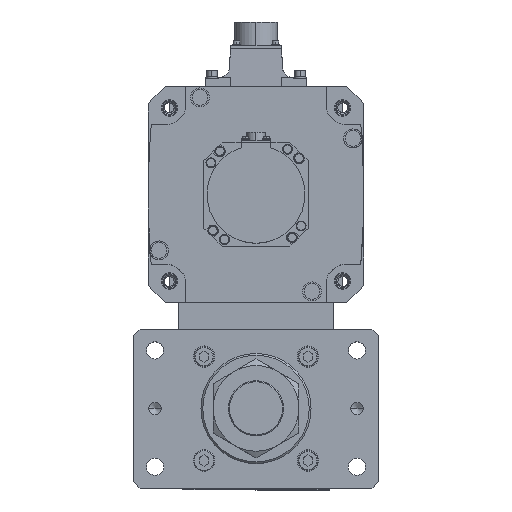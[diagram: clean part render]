
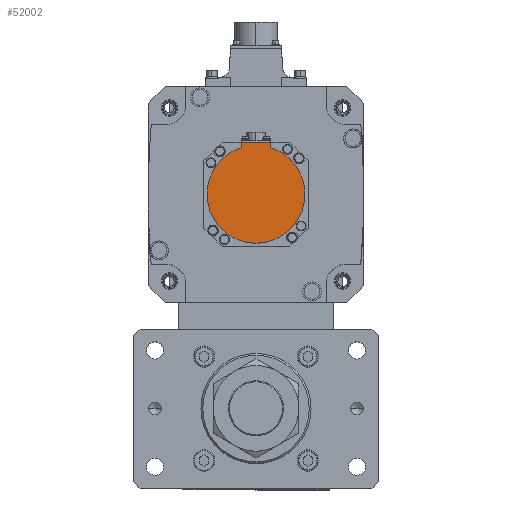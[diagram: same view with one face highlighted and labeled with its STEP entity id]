
A CAD part, top view. The second image highlights one B-rep face of the part: STEP entity #52002.
In plain terms, the highlighted planar face has unit normal (0, 0, 1) as drawn and (0, 0, -1) by its records, which use the part's own axes.
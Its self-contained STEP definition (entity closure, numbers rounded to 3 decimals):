
#112 = PLANE ( 'NONE',  #39956 ) ;
#235 = ORIENTED_EDGE ( 'NONE', *, *, #29840, .F. ) ;
#741 = VERTEX_POINT ( 'NONE', #10797 ) ;
#1277 = AXIS2_PLACEMENT_3D ( 'NONE', #44938, #29674, #21399 ) ;
#1887 = VECTOR ( 'NONE', #18092, 1000. ) ;
#3756 = EDGE_LOOP ( 'NONE', ( #36970, #32651, #235, #41094, #12124, #16810 ) ) ;
#6141 = CARTESIAN_POINT ( 'NONE',  ( -12., -38.158, -138.5 ) ) ;
#6347 = DIRECTION ( 'NONE',  ( 1., 0., 0. ) ) ;
#6721 = CARTESIAN_POINT ( 'NONE',  ( 12., -38.158, -138.5 ) ) ;
#8198 = CARTESIAN_POINT ( 'NONE',  ( 0., -1.249, -138.5 ) ) ;
#9946 = EDGE_CURVE ( 'NONE', #49425, #741, #13888, .T. ) ;
#10797 = CARTESIAN_POINT ( 'NONE',  ( -12., -42.5, -138.5 ) ) ;
#12124 = ORIENTED_EDGE ( 'NONE', *, *, #17958, .F. ) ;
#12603 = DIRECTION ( 'NONE',  ( 0., 0., 1. ) ) ;
#13124 = DIRECTION ( 'NONE',  ( 0., 0., 1. ) ) ;
#13888 = LINE ( 'NONE', #38005, #1887 ) ;
#14594 = VERTEX_POINT ( 'NONE', #6721 ) ;
#14755 = VERTEX_POINT ( 'NONE', #43808 ) ;
#16810 = ORIENTED_EDGE ( 'NONE', *, *, #9946, .T. ) ;
#17958 = EDGE_CURVE ( 'NONE', #49425, #14594, #37338, .T. ) ;
#18092 = DIRECTION ( 'NONE',  ( -1., 0., 0. ) ) ;
#19154 = VECTOR ( 'NONE', #20034, 1000. ) ;
#19268 = EDGE_CURVE ( 'NONE', #14594, #14755, #28472, .T. ) ;
#20034 = DIRECTION ( 'NONE',  ( 0., 1., 0. ) ) ;
#20744 = FACE_OUTER_BOUND ( 'NONE', #3756, .T. ) ;
#21399 = DIRECTION ( 'NONE',  ( 1., 0., 0. ) ) ;
#21607 = CARTESIAN_POINT ( 'NONE',  ( 12., -1.249, -138.5 ) ) ;
#22288 = VERTEX_POINT ( 'NONE', #6141 ) ;
#22399 = DIRECTION ( 'NONE',  ( 0., 0., 1. ) ) ;
#24146 = EDGE_CURVE ( 'NONE', #741, #22288, #25479, .T. ) ;
#25479 = LINE ( 'NONE', #51454, #19154 ) ;
#26640 = VECTOR ( 'NONE', #29704, 1000. ) ;
#28472 = CIRCLE ( 'NONE', #1277, 40. ) ;
#28995 = CARTESIAN_POINT ( 'NONE',  ( 0., 0., -138.5 ) ) ;
#29674 = DIRECTION ( 'NONE',  ( 0., 0., 1. ) ) ;
#29704 = DIRECTION ( 'NONE',  ( 0., 1., 0. ) ) ;
#29840 = EDGE_CURVE ( 'NONE', #14755, #37046, #50028, .T. ) ;
#32651 = ORIENTED_EDGE ( 'NONE', *, *, #45297, .F. ) ;
#32677 = DIRECTION ( 'NONE',  ( 1., 0., 0. ) ) ;
#34101 = AXIS2_PLACEMENT_3D ( 'NONE', #28995, #13124, #41271 ) ;
#36970 = ORIENTED_EDGE ( 'NONE', *, *, #24146, .T. ) ;
#37046 = VERTEX_POINT ( 'NONE', #42329 ) ;
#37338 = LINE ( 'NONE', #21607, #26640 ) ;
#37475 = CARTESIAN_POINT ( 'NONE',  ( 12., -42.5, -138.5 ) ) ;
#38005 = CARTESIAN_POINT ( 'NONE',  ( 0., -42.5, -138.5 ) ) ;
#38753 = CARTESIAN_POINT ( 'NONE',  ( 0., 0., -138.5 ) ) ;
#39956 = AXIS2_PLACEMENT_3D ( 'NONE', #8198, #12603, #32677 ) ;
#41094 = ORIENTED_EDGE ( 'NONE', *, *, #19268, .F. ) ;
#41271 = DIRECTION ( 'NONE',  ( 1., 0., 0. ) ) ;
#41429 = AXIS2_PLACEMENT_3D ( 'NONE', #38753, #22399, #6347 ) ;
#42329 = CARTESIAN_POINT ( 'NONE',  ( -40., 0., -138.5 ) ) ;
#43808 = CARTESIAN_POINT ( 'NONE',  ( 40., 0., -138.5 ) ) ;
#44938 = CARTESIAN_POINT ( 'NONE',  ( 0., 0., -138.5 ) ) ;
#45297 = EDGE_CURVE ( 'NONE', #37046, #22288, #47742, .T. ) ;
#47742 = CIRCLE ( 'NONE', #41429, 40. ) ;
#49425 = VERTEX_POINT ( 'NONE', #37475 ) ;
#50028 = CIRCLE ( 'NONE', #34101, 40. ) ;
#51454 = CARTESIAN_POINT ( 'NONE',  ( -12., -40.329, -138.5 ) ) ;
#52002 = ADVANCED_FACE ( 'NONE', ( #20744 ), #112, .F. ) ;
